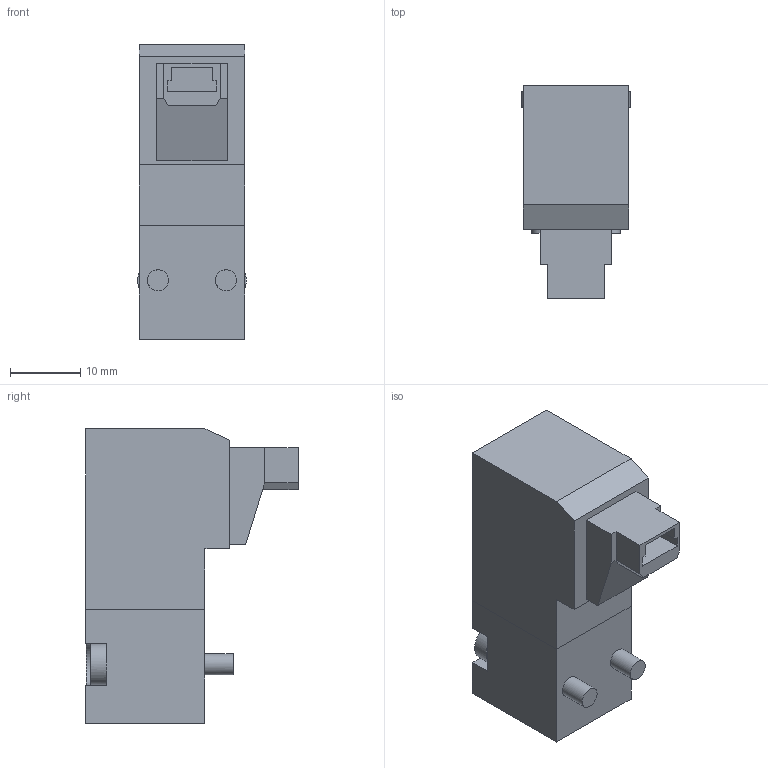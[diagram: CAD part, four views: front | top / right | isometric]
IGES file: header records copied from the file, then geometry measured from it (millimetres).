
Global section: file name: N3##_R6#-2; native system: Autodesk Inventor 2014; preprocessor: unknown; author: A. Manieri; organization: Pneumax S.p.A.; date: 20160913.134759; units: millimetre
Bounding box: 15.5 x 30.3 x 42 mm (x, y, z)
Volume: 12224.7 mm3; surface area: 4078.1 mm2
Topology: 1 solids, 1 shells, 87 faces, 227 edges, 148 vertices
Faces by surface type: bspline 87
